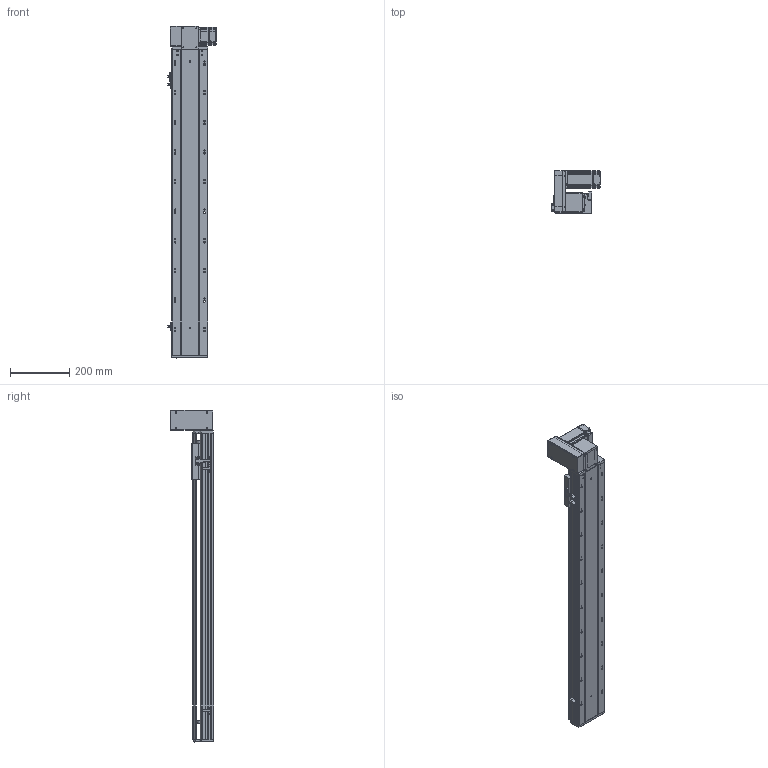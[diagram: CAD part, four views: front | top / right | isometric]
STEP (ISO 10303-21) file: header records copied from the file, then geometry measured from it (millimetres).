
FILE_DESCRIPTION (( 'STEP AP203' ), '1' );
FILE_NAME ('RY120-T-300-UL.SLDASM_800.step', '2021-03-01T05:35:52', ( '盈信电脑' ), ( '东莞市道滘镇水果街19号' ), 'SwSTEP 2.0', 'SolidWorks 2012', '' );
FILE_SCHEMA (( 'CONFIG_CONTROL_DESIGN' ));
Length unit declared in the file: millimetre
Products named in the file (18): RY120-T-300-UL.SLDASM_800; 滅袉蝶18-10; RY120-T蹟翐M4; RY120-T翋肮祭謫裔啣; RY120-T萇儂欶; RY120-T萇儂假蚾啣; 侂狟400W侜督萇儂; RY120-T主同步轮轴承压盖; 15; RY120-T肮祭湍揤踡輸2; RY120-T翋肮祭盓傅釱; RY120外置感应片(140共用）; RY120-T肮祭湍揤踡輸1; RY120綴裔啣; 覜茼ん672; RY120肮祭湍臏賑輸; RY120-T-300-UL倰第奻裔啣_800; RY120-T-300-UL倰第菁釱_800
Assembly tree (23 placements, depth 3):
  RY120-T-300-UL.SLDASM_800
    RY120-T-300-UL倰第菁釱_800
    RY120-T-300-UL倰第奻裔啣_800
    RY120肮祭湍臏賑輸
    RY120綴裔啣
    覜茼ん672  x3
    RY120外置感应片(140共用）
    RY120-T肮祭湍揤踡輸1
    RY120-T肮祭湍揤踡輸2
    RY120-T翋肮祭盓傅釱
    RY120-T萇儂假蚾啣
    侂狟400W侜督萇儂
      15
    RY120-T主同步轮轴承压盖
    滅袉蝶18-10  x2
    RY120-T萇儂欶
    RY120-T蹟翐M4  x4
    RY120-T翋肮祭謫裔啣
Bounding box: 164.2 x 146 x 1121 mm (x, y, z)
Volume: 3173127.3 mm3; surface area: 1178623 mm2
Topology: 23 solids, 23 shells, 2914 faces, 7996 edges, 5144 vertices
Faces by surface type: plane 1442, cylinder 1140, cone 243, bspline 89
Entity records: 94360 total; most frequent: CARTESIAN_POINT 24796, ORIENTED_EDGE 14440, DIRECTION 13482, EDGE_CURVE 7220, VERTEX_POINT 4731, AXIS2_PLACEMENT_3D 4529, VECTOR 4424, LINE 4424
